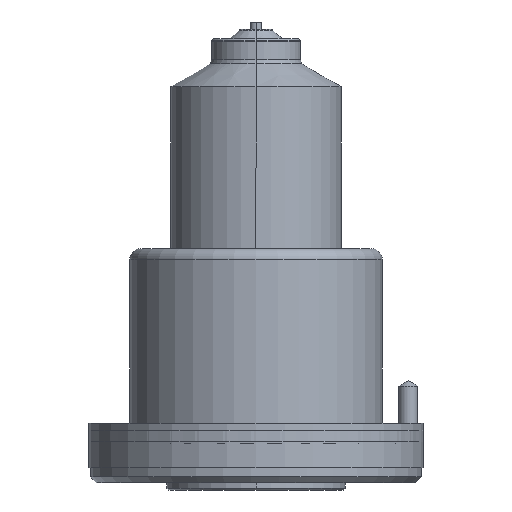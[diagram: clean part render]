
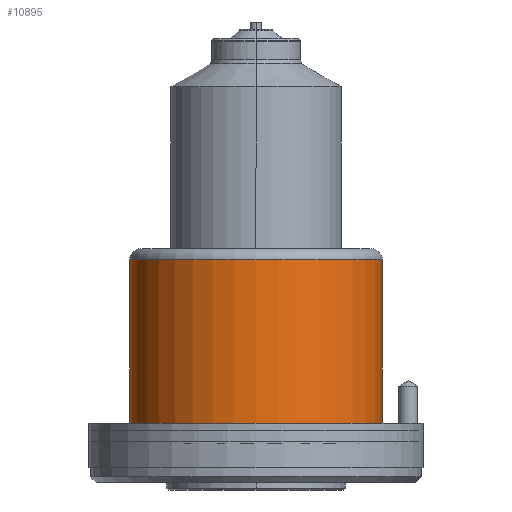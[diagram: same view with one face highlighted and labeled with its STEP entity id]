
A CAD part, front view. The second image highlights one B-rep face of the part: STEP entity #10895.
In plain terms, the highlighted cylindrical face has radius 34 mm (diameter 68 mm), a partial arc.
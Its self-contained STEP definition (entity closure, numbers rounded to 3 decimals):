
#1214 = AXIS2_PLACEMENT_3D ( 'NONE', #6546, #6545, #6544 ) ;
#1215 = AXIS2_PLACEMENT_3D ( 'NONE', #6549, #6548, #6547 ) ;
#2110 = CARTESIAN_POINT ( 'NONE',  ( 34., 0., 18. ) ) ;
#2114 = CARTESIAN_POINT ( 'NONE',  ( -34., 0., 62. ) ) ;
#2219 = EDGE_CURVE ( 'NONE', #14426, #14486, #5103, .T. ) ;
#2228 = EDGE_CURVE ( 'NONE', #14483, #9878, #5088, .T. ) ;
#2236 = CARTESIAN_POINT ( 'NONE',  ( 34., 0., 62. ) ) ;
#2374 = EDGE_CURVE ( 'NONE', #14486, #9878, #4965, .T. ) ;
#2378 = EDGE_CURVE ( 'NONE', #14426, #14483, #4964, .T. ) ;
#3593 = CARTESIAN_POINT ( 'NONE',  ( -34., 0., 18. ) ) ;
#4964 = CIRCLE ( 'NONE', #1214, 34. ) ;
#4965 = CIRCLE ( 'NONE', #1215, 34. ) ;
#5085 = VECTOR ( 'NONE', #6768, 1000. ) ;
#5088 = LINE ( 'NONE', #6769, #5085 ) ;
#5100 = VECTOR ( 'NONE', #6786, 1000. ) ;
#5103 = LINE ( 'NONE', #6787, #5100 ) ;
#5714 = EDGE_LOOP ( 'NONE', ( #12620, #12621, #12622, #12623 ) ) ;
#6544 = DIRECTION ( 'NONE',  ( -1., 0., 0. ) ) ;
#6545 = DIRECTION ( 'NONE',  ( 0., 0., -1. ) ) ;
#6546 = CARTESIAN_POINT ( 'NONE',  ( 0., 0., 62. ) ) ;
#6547 = DIRECTION ( 'NONE',  ( -1., 0., 0. ) ) ;
#6548 = DIRECTION ( 'NONE',  ( 0., 0., -1. ) ) ;
#6549 = CARTESIAN_POINT ( 'NONE',  ( 0., 0., 18. ) ) ;
#6768 = DIRECTION ( 'NONE',  ( 0., 0., -1. ) ) ;
#6769 = CARTESIAN_POINT ( 'NONE',  ( -34., 0., 0. ) ) ;
#6786 = DIRECTION ( 'NONE',  ( 0., 0., -1. ) ) ;
#6787 = CARTESIAN_POINT ( 'NONE',  ( 34., 0., 0. ) ) ;
#7502 = FACE_OUTER_BOUND ( 'NONE', #5714, .T. ) ;
#8472 = CYLINDRICAL_SURFACE ( 'NONE', #11196, 34. ) ;
#9878 = VERTEX_POINT ( 'NONE', #3593 ) ;
#10895 = ADVANCED_FACE ( 'NONE', ( #7502 ), #8472, .T. ) ;
#11196 = AXIS2_PLACEMENT_3D ( 'NONE', #14186, #14185, #14183 ) ;
#12620 = ORIENTED_EDGE ( 'NONE', *, *, #2219, .F. ) ;
#12621 = ORIENTED_EDGE ( 'NONE', *, *, #2378, .T. ) ;
#12622 = ORIENTED_EDGE ( 'NONE', *, *, #2228, .T. ) ;
#12623 = ORIENTED_EDGE ( 'NONE', *, *, #2374, .F. ) ;
#14183 = DIRECTION ( 'NONE',  ( -1., 0., 0. ) ) ;
#14185 = DIRECTION ( 'NONE',  ( 0., 0., -1. ) ) ;
#14186 = CARTESIAN_POINT ( 'NONE',  ( 0., 0., 0. ) ) ;
#14426 = VERTEX_POINT ( 'NONE', #2236 ) ;
#14483 = VERTEX_POINT ( 'NONE', #2114 ) ;
#14486 = VERTEX_POINT ( 'NONE', #2110 ) ;
